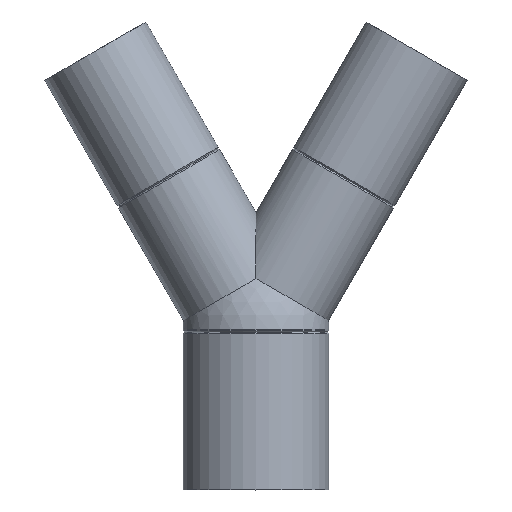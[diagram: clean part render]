
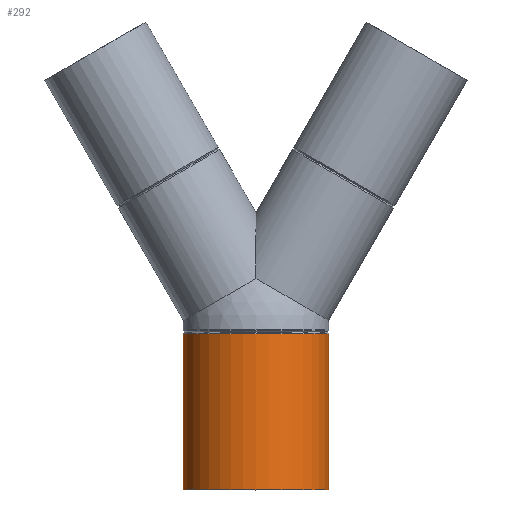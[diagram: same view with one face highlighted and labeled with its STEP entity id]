
A CAD part, top view. The second image highlights one B-rep face of the part: STEP entity #292.
In plain terms, the highlighted cylindrical face has radius 25 mm (diameter 50 mm), a full revolution.
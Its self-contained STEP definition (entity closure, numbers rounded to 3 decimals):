
#24=CYLINDRICAL_SURFACE($,#321,25.);
#36=FACE_BOUND($,#82,.T.);
#59=FACE_OUTER_BOUND($,#81,.T.);
#81=EDGE_LOOP($,(#204));
#82=EDGE_LOOP($,(#205));
#122=CIRCLE($,#320,25.);
#123=CIRCLE($,#322,25.);
#147=VERTEX_POINT($,#481);
#148=VERTEX_POINT($,#484);
#172=EDGE_CURVE($,#147,#147,#122,.T.);
#173=EDGE_CURVE($,#148,#148,#123,.T.);
#204=ORIENTED_EDGE($,*,*,#173,.F.);
#205=ORIENTED_EDGE($,*,*,#172,.T.);
#292=ADVANCED_FACE($,(#59,#36),#24,.T.);
#320=AXIS2_PLACEMENT_3D($,#482,#378,#379);
#321=AXIS2_PLACEMENT_3D($,#483,#380,#381);
#322=AXIS2_PLACEMENT_3D($,#485,#382,#383);
#378=DIRECTION('center_axis',(0.,-1.,0.));
#379=DIRECTION('ref_axis',(1.,0.,0.));
#380=DIRECTION('center_axis',(0.,1.,0.));
#381=DIRECTION('ref_axis',(1.,0.,0.));
#382=DIRECTION('center_axis',(0.,-1.,0.));
#383=DIRECTION('ref_axis',(1.,0.,0.));
#481=CARTESIAN_POINT('',(25.,53.5,0.));
#482=CARTESIAN_POINT('Origin',(0.,53.5,0.));
#483=CARTESIAN_POINT('Origin',(0.,0.,0.));
#484=CARTESIAN_POINT('',(-25.,0.,0.));
#485=CARTESIAN_POINT('Origin',(0.,0.,0.));
